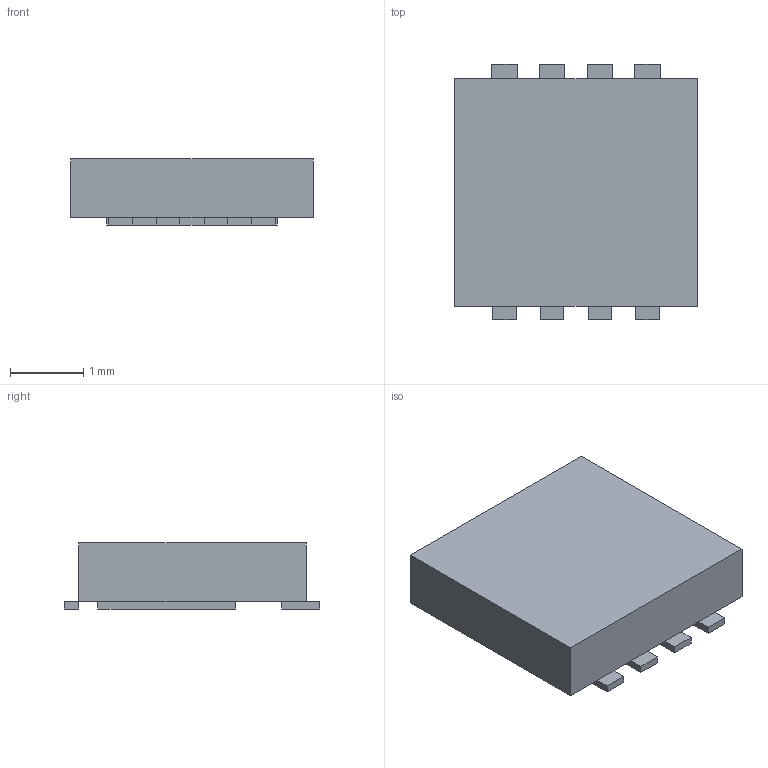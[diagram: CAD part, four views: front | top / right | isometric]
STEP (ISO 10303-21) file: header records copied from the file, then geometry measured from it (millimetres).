
FILE_DESCRIPTION(('FreeCAD Model'),'2;1');
FILE_NAME('/var/www/3D/0T/1543899.1.2.stp','2020-04-10T08:00:20',( 'Author'),(''),'Open CASCADE STEP processor 6.9','FreeCAD','Unknown' );
FILE_SCHEMA(('AUTOMOTIVE_DESIGN { 1 0 10303 214 1 1 1 1 }'));
Length unit declared in the file: millimetre
Products named in the file (3): ASSEMBLY; Body; Pins
Assembly tree (2 placements, depth 2):
  ASSEMBLY
    Body
    Pins
Bounding box: 3.3 x 3.48 x 0.9 mm (x, y, z)
Volume: 8.7 mm3; surface area: 43.3 mm2
Topology: 10 solids, 10 shells, 60 faces, 120 edges, 80 vertices
Faces by surface type: plane 60
Entity records: 3206 total; most frequent: CARTESIAN_POINT 503, DIRECTION 486, LINE 360, VECTOR 360, ORIENTED_EDGE 240, PCURVE 240, DEFINITIONAL_REPRESENTATION 240, EDGE_CURVE 120
